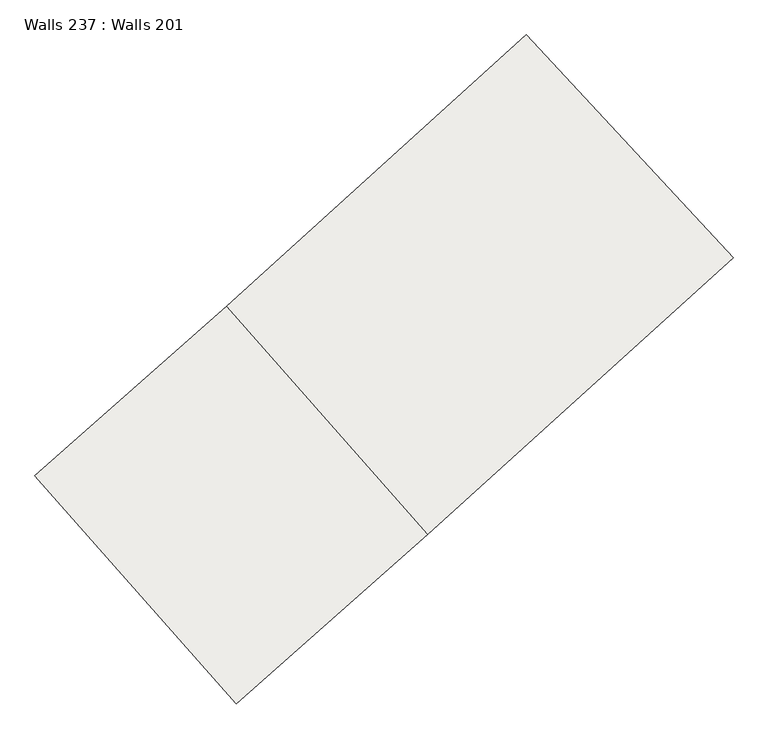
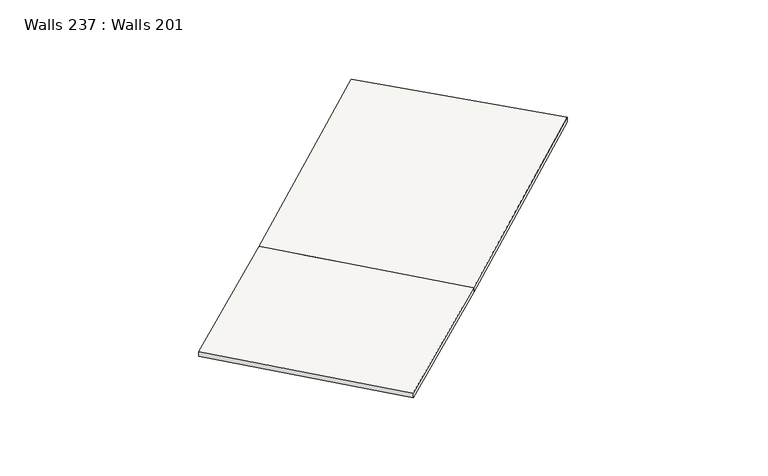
"""IFC4 building model written with IfcOpenShell, lengths in millimetres: slab geometry, Walls 237 : Walls 201."""

from ifc_helpers import new_model, si_unit, frame, origin, place, context, project, spatial, source, transform, mapped, element, save
from ifc_brep_helpers import plane_surface, spline_curve, spline_surface, advanced_brep


def walls_237_walls_201_9df978c8(model_context):
    return source(origin(), model_context, "Body", "AdvancedBrep", [
        advanced_brep(
        [(372888.2739339, 237760.6772319, 644465.0), (372888.2739339, 237760.6772319, 644365.0), (370165.4526261, 240690.846763, 644365.0), (370165.4526261, 240690.846763, 644465.0), (366227.8467617, 237121.6798529, 644396.0), (368876.2429111, 234125.6386556, 644396.0), (366357.1745149, 231897.5874469, 644352.0), (363707.9723076, 234894.5405104, 644352.0), (363707.9723076, 234894.5405104, 644252.0), (366357.1745149, 231897.5874469, 644252.0), (366227.8467617, 237121.6798529, 644296.0), (368876.2429111, 234125.6386556, 644296.0)],
        [
            (0, 1),
            (1, 2),
            (2, 3),
            (3, 0),
            (3, 4, spline_curve(3, [(370165.4526261, 240690.846763, 644465.0), (368867.767984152, 239484.878071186, 644442.000000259), (367555.097618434, 238295.033306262, 644418.999999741), (366227.8467617, 237121.6798529, 644396.0)], [4, 4], [0.0, 17.600841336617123])),
            (4, 5, spline_curve(3, [(366227.8467617, 237121.6798529, 644396.0), (367110.645477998, 236122.999453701, 644396.0), (367993.444194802, 235124.319054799, 644396.0), (368876.2429111, 234125.6386556, 644396.0)], [4, 4], [0.0, 13.121291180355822])),
            (5, 0, spline_curve(3, [(368876.2429111, 234125.6386556, 644396.0), (370228.570069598, 235320.636722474, 644418.999999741), (371566.051428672, 236532.440909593, 644442.000000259), (372888.2739339, 237760.6772319, 644465.0)], [4, 4], [0.0, 17.600841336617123])),
            (6, 7),
            (7, 8),
            (8, 9),
            (9, 6),
            (6, 5),
            (4, 7),
            (4, 10, spline_curve(3, [(366227.8467617, 237121.6798529, 644396.0), (366227.8467617, 237121.6798529, 644362.666666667), (366227.8467617, 237121.6798529, 644329.333333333), (366227.8467617, 237121.6798529, 644296.0)], [4, 4], [0.0, 0.3280839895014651])),
            (10, 8),
            (10, 11, spline_curve(3, [(366227.8467617, 237121.6798529, 644296.0), (367110.645477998, 236122.999453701, 644296.0), (367993.444194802, 235124.319054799, 644296.0), (368876.2429111, 234125.6386556, 644296.0)], [4, 4], [0.0, 13.121291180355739])),
            (11, 9),
            (11, 5, spline_curve(3, [(368876.2429111, 234125.6386556, 644296.0), (368876.2429111, 234125.6386556, 644329.333333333), (368876.2429111, 234125.6386556, 644362.666666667), (368876.2429111, 234125.6386556, 644396.0)], [4, 4], [0.0, 0.3280839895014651])),
            (2, 10, spline_curve(3, [(370165.4526261, 240690.846763, 644365.0), (368867.767984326, 239484.878070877, 644341.99999996), (367555.097618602, 238295.03330623, 644319.00000004), (366227.8467617, 237121.6798529, 644296.0)], [4, 4], [0.0, 17.437822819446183])),
            (1, 11, spline_curve(3, [(372888.2739339, 237760.6772319, 644365.0), (371566.051428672, 236532.440909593, 644342.000000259), (370228.570069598, 235320.636722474, 644318.999999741), (368876.2429111, 234125.6386556, 644296.0)], [4, 4], [0.0, 17.600841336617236])),
        ],
        [
            plane_surface(frame((371526.86328, 239225.7619975, 644415.0), z_axis=(0.7325504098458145, 0.6807127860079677, 0.0), x_axis=(-0.6807127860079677, 0.7325504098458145, 0.0))),
            spline_surface(3, 3, [[(372888.2739339, 237760.6772319, 644465.0), (371566.051428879, 236532.44090969, 644442.0), (370228.570069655, 235320.636722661, 644419.0), (368876.2429111, 234125.6386556, 644396.0)], [(371980.666831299, 238737.400408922, 644465.0), (370666.623614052, 237516.586630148, 644442.0), (369337.412586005, 236312.102250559, 644419.0), (367993.444194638, 235124.319054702, 644396.0)], [(371073.059728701, 239714.123585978, 644465.0), (369767.195799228, 238500.73235064, 644442.0), (368446.255102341, 237303.567778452, 644419.0), (367110.645478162, 236122.999453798, 644396.0)], [(370165.4526261, 240690.846763, 644465.0), (368867.767984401, 239484.878071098, 644442.0), (367555.097618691, 238295.03330635, 644419.0), (366227.8467617, 237121.6798529, 644396.0)]], [4, 4], [4, 4], [0.0, 13.121291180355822], [0.0, 17.600841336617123]),
            plane_surface(frame((365032.5734112, 233396.0639786, 644302.0), z_axis=(-0.7492382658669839, -0.6623005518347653, 0.0), x_axis=(0.0, 0.0, -1.0))),
            plane_surface(frame((367552.0448364, 235623.6592543, 644396.0), z_axis=(-0.009801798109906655, -0.008664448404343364, 0.9999144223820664), x_axis=(-0.6623005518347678, 0.749238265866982, 0.0))),
            plane_surface(frame((366227.8467617, 237121.6798529, 644346.0), z_axis=(-0.662243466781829, 0.7492887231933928, 0.0), x_axis=(0.0, 0.0, -1.0))),
            plane_surface(frame((367552.0448364, 235623.6592543, 644296.0), z_axis=(0.009801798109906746, 0.008664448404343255, -0.9999144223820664), x_axis=(0.6623005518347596, -0.749238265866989, 0.0))),
            plane_surface(frame((368876.2429111, 234125.6386556, 644346.0), z_axis=(0.6625145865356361, -0.7490490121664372, 0.0), x_axis=(0.0, 0.0, 1.0))),
            spline_surface(3, 3, [[(370165.4526261, 240690.846763, 644465.0), (368867.767984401, 239484.878071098, 644442.0), (367555.097618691, 238295.03330635, 644419.0), (366227.8467617, 237121.6798529, 644396.0)], [(370165.4526261, 240690.846763, 644431.666666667), (368867.767984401, 239484.878071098, 644408.666666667), (367555.097618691, 238295.03330635, 644385.666666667), (366227.8467617, 237121.6798529, 644362.666666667)], [(370165.4526261, 240690.846763, 644398.333333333), (368867.767984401, 239484.878071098, 644375.333333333), (367555.097618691, 238295.03330635, 644352.333333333), (366227.8467617, 237121.6798529, 644329.333333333)], [(370165.4526261, 240690.846763, 644365.0), (368867.767984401, 239484.878071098, 644342.0), (367555.097618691, 238295.03330635, 644319.0), (366227.8467617, 237121.6798529, 644296.0)]], [4, 4], [4, 4], [0.0, 0.3280839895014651], [0.0, 17.437822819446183]),
            spline_surface(3, 3, [[(370165.4526261, 240690.846763, 644365.0), (368867.767984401, 239484.878071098, 644342.0), (367555.097618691, 238295.03330635, 644319.0), (366227.8467617, 237121.6798529, 644296.0)], [(371073.059728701, 239714.123585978, 644365.0), (369767.195799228, 238500.732350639, 644342.0), (368446.255102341, 237303.567778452, 644319.0), (367110.645478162, 236122.999453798, 644296.0)], [(371980.666831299, 238737.400408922, 644365.0), (370666.623614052, 237516.586630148, 644342.0), (369337.412586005, 236312.102250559, 644319.0), (367993.444194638, 235124.319054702, 644296.0)], [(372888.2739339, 237760.6772319, 644365.0), (371566.051428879, 236532.44090969, 644342.0), (370228.570069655, 235320.636722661, 644319.0), (368876.2429111, 234125.6386556, 644296.0)]], [4, 4], [4, 4], [0.0, 13.121291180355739], [0.0, 17.600841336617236]),
            spline_surface(3, 3, [[(372888.2739339, 237760.6772319, 644365.0), (371566.051428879, 236532.44090969, 644342.0), (370228.570069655, 235320.636722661, 644319.0), (368876.2429111, 234125.6386556, 644296.0)], [(372888.2739339, 237760.6772319, 644398.333333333), (371566.051428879, 236532.44090969, 644375.333333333), (370228.570069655, 235320.636722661, 644352.333333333), (368876.2429111, 234125.6386556, 644329.333333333)], [(372888.2739339, 237760.6772319, 644431.666666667), (371566.051428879, 236532.44090969, 644408.666666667), (370228.570069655, 235320.636722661, 644385.666666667), (368876.2429111, 234125.6386556, 644362.666666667)], [(372888.2739339, 237760.6772319, 644465.0), (371566.051428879, 236532.44090969, 644442.0), (370228.570069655, 235320.636722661, 644419.0), (368876.2429111, 234125.6386556, 644396.0)]], [4, 4], [4, 4], [0.0, 0.3280839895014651], [0.0, 17.76386031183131]),
        ],
        [
            (0, [[1, 2, 3, 4]]),
            (1, [[-4, 5, 6, 7]]),
            (2, [[8, 9, 10, 11]]),
            (3, [[-8, 12, -6, 13]]),
            (4, [[-9, -13, 14, 15]]),
            (5, [[-10, -15, 16, 17]]),
            (6, [[-11, -17, 18, -12]]),
            (7, [[-3, 19, -14, -5]]),
            (8, [[-2, 20, -16, -19]]),
            (9, [[-1, -7, -18, -20]]),
        ],
    ),
    ])


if __name__ == "__main__":
    model = new_model("IFC4")
    model_context = context("Model", 3, world=origin())
    ifc_project = project(units=[si_unit("LENGTHUNIT", "METRE", prefix="MILLI")], contexts=[model_context])
    site = spatial("IfcSite", under=ifc_project)
    building = spatial("IfcBuilding", under=site)
    placement = place(None, origin())
    walls_237_walls_201_shape = walls_237_walls_201_9df978c8(model_context)
    element("IfcSlab", 1, ObjectType="Walls 237 : Walls 201", at=placement, inside=building, context=model_context, shape_type="MappedRepresentation", body=[
        mapped(walls_237_walls_201_shape, transform((0.0, 0.0, 0.0), x_axis=(1.0, 0.0, 0.0), y_axis=(0.0, 1.0, 0.0), z_axis=(0.0, 0.0, 1.0))),
    ])
    save(model, "model.ifc")
